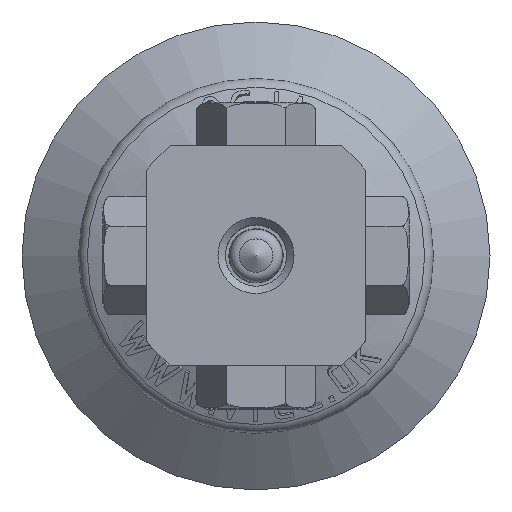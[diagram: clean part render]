
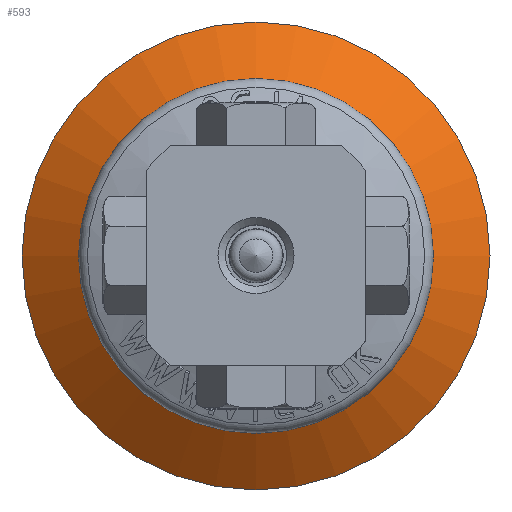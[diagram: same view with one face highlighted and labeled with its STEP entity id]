
A CAD part, top view. The second image highlights one B-rep face of the part: STEP entity #593.
In plain terms, the highlighted conical face has half-angle 53.66 degrees and reference radius 12.136 mm.
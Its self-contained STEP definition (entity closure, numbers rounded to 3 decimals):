
#593 = ADVANCED_FACE( '', ( #1221, #1222 ), #1223, .T. );
#1221 = FACE_OUTER_BOUND( '', #5042, .T. );
#1222 = FACE_BOUND( '', #5043, .T. );
#1223 = CONICAL_SURFACE( '', #5044, 12.136, 0.937 );
#5042 = EDGE_LOOP( '', ( #6808 ) );
#5043 = EDGE_LOOP( '', ( #6809 ) );
#5044 = AXIS2_PLACEMENT_3D( '', #6810, #6811, #6812 );
#6808 = ORIENTED_EDGE( '', *, *, #7215, .T. );
#6809 = ORIENTED_EDGE( '', *, *, #7542, .F. );
#6810 = CARTESIAN_POINT( '', ( 0., 0., -2.158 ) );
#6811 = DIRECTION( '', ( 0., 0., -1. ) );
#6812 = DIRECTION( '', ( -1., 0., 0. ) );
#7215 = EDGE_CURVE( '', #8467, #8467, #8468, .F. );
#7542 = EDGE_CURVE( '', #8997, #8997, #8998, .T. );
#8467 = VERTEX_POINT( '', #10137 );
#8468 = CIRCLE( '', #10138, 16. );
#8997 = VERTEX_POINT( '', #11771 );
#8998 = CIRCLE( '', #11772, 12.136 );
#10137 = CARTESIAN_POINT( '', ( -16., 0., -5. ) );
#10138 = AXIS2_PLACEMENT_3D( '', #12928, #12929, #12930 );
#11771 = CARTESIAN_POINT( '', ( 12.136, 0., -2.158 ) );
#11772 = AXIS2_PLACEMENT_3D( '', #13052, #13053, #13054 );
#12928 = CARTESIAN_POINT( '', ( 0., 0., -5. ) );
#12929 = DIRECTION( '', ( 0., 0., -1. ) );
#12930 = DIRECTION( '', ( -1., 0., 0. ) );
#13052 = CARTESIAN_POINT( '', ( 0., 0., -2.158 ) );
#13053 = DIRECTION( '', ( 0., 0., 1. ) );
#13054 = DIRECTION( '', ( 1., 0., 0. ) );
